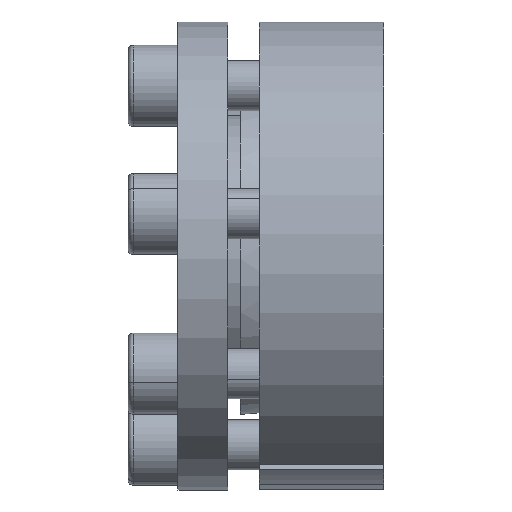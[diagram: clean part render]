
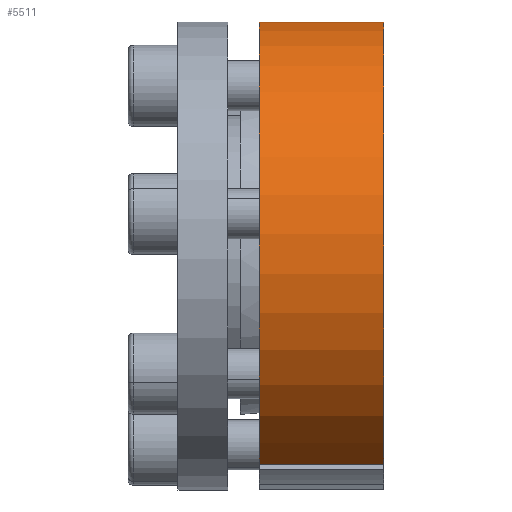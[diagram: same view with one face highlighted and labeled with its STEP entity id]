
A CAD part, front view. The second image highlights one B-rep face of the part: STEP entity #5511.
In plain terms, the highlighted cylindrical face has radius 37.5 mm (diameter 75 mm), a partial arc.
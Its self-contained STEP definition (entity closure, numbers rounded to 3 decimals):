
#420 = CARTESIAN_POINT ( 'NONE',  ( -10.395, -24.913, -33.333 ) ) ;
#510 = ORIENTED_EDGE ( 'NONE', *, *, #632, .F. ) ;
#632 = EDGE_CURVE ( 'NONE', #4669, #1861, #1606, .T. ) ;
#800 = LINE ( 'NONE', #2020, #5399 ) ;
#865 = DIRECTION ( 'NONE',  ( -1., 0., 0. ) ) ;
#1144 = DIRECTION ( 'NONE',  ( 1., 0., 0. ) ) ;
#1383 = CARTESIAN_POINT ( 'NONE',  ( -10.395, 0.599, 36.566 ) ) ;
#1509 = VERTEX_POINT ( 'NONE', #2994 ) ;
#1539 = VECTOR ( 'NONE', #5536, 1000. ) ;
#1606 = CIRCLE ( 'NONE', #2415, 37.5 ) ;
#1679 = LINE ( 'NONE', #1383, #1539 ) ;
#1725 = EDGE_LOOP ( 'NONE', ( #2300, #3801, #510, #1988 ) ) ;
#1848 = DIRECTION ( 'NONE',  ( -1., 0., 0. ) ) ;
#1861 = VERTEX_POINT ( 'NONE', #2186 ) ;
#1988 = ORIENTED_EDGE ( 'NONE', *, *, #5256, .T. ) ;
#2020 = CARTESIAN_POINT ( 'NONE',  ( -10.395, -24.913, -33.333 ) ) ;
#2186 = CARTESIAN_POINT ( 'NONE',  ( -10.395, 0.599, 36.566 ) ) ;
#2203 = CARTESIAN_POINT ( 'NONE',  ( -10.395, -7.745, 0.006 ) ) ;
#2242 = DIRECTION ( 'NONE',  ( -1., 0., 0. ) ) ;
#2300 = ORIENTED_EDGE ( 'NONE', *, *, #3303, .T. ) ;
#2301 = DIRECTION ( 'NONE',  ( 0., -0.223, -0.975 ) ) ;
#2415 = AXIS2_PLACEMENT_3D ( 'NONE', #2203, #2242, #2301 ) ;
#2922 = CIRCLE ( 'NONE', #3543, 37.5 ) ;
#2994 = CARTESIAN_POINT ( 'NONE',  ( 9.605, 0.599, 36.566 ) ) ;
#3035 = CYLINDRICAL_SURFACE ( 'NONE', #3577, 37.5 ) ;
#3160 = CARTESIAN_POINT ( 'NONE',  ( -10.395, -7.745, 0.006 ) ) ;
#3303 = EDGE_CURVE ( 'NONE', #5325, #1509, #2922, .T. ) ;
#3352 = EDGE_CURVE ( 'NONE', #1509, #1861, #1679, .T. ) ;
#3484 = CARTESIAN_POINT ( 'NONE',  ( 9.605, -24.913, -33.333 ) ) ;
#3543 = AXIS2_PLACEMENT_3D ( 'NONE', #4605, #1848, #5079 ) ;
#3577 = AXIS2_PLACEMENT_3D ( 'NONE', #3160, #865, #4540 ) ;
#3801 = ORIENTED_EDGE ( 'NONE', *, *, #3352, .T. ) ;
#4375 = FACE_OUTER_BOUND ( 'NONE', #1725, .T. ) ;
#4540 = DIRECTION ( 'NONE',  ( 0., -0.223, -0.975 ) ) ;
#4605 = CARTESIAN_POINT ( 'NONE',  ( 9.605, -7.745, 0.006 ) ) ;
#4669 = VERTEX_POINT ( 'NONE', #420 ) ;
#5079 = DIRECTION ( 'NONE',  ( 0., -0.223, -0.975 ) ) ;
#5256 = EDGE_CURVE ( 'NONE', #4669, #5325, #800, .T. ) ;
#5325 = VERTEX_POINT ( 'NONE', #3484 ) ;
#5399 = VECTOR ( 'NONE', #1144, 1000. ) ;
#5511 = ADVANCED_FACE ( 'NONE', ( #4375 ), #3035, .T. ) ;
#5536 = DIRECTION ( 'NONE',  ( -1., 0., 0. ) ) ;
